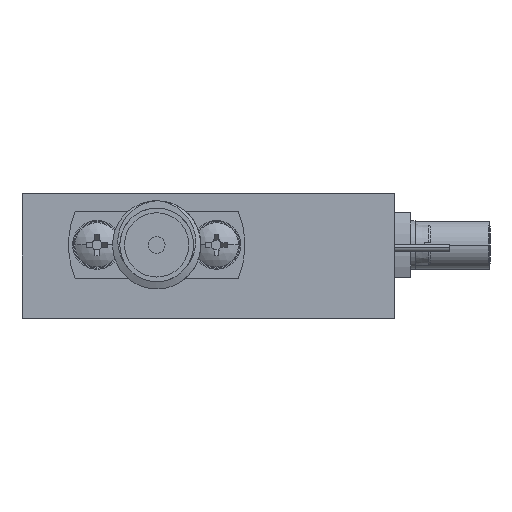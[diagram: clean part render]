
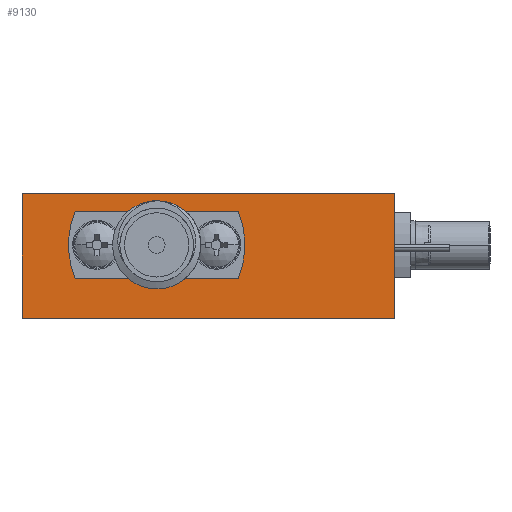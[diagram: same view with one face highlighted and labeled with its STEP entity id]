
A CAD part, left-side view. The second image highlights one B-rep face of the part: STEP entity #9130.
In plain terms, the highlighted planar face has unit normal (-1, 0, 0).
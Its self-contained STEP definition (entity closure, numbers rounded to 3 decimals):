
#1299 = DIRECTION ( 'NONE',  ( 0., -1., 0. ) ) ;
#1707 = VERTEX_POINT ( 'NONE', #56905 ) ;
#1860 = FACE_OUTER_BOUND ( 'NONE', #21637, .T. ) ;
#4303 = ORIENTED_EDGE ( 'NONE', *, *, #17944, .F. ) ;
#7739 = VERTEX_POINT ( 'NONE', #20815 ) ;
#9130 = ADVANCED_FACE ( 'NONE', ( #30271, #1860 ), #40872, .F. ) ;
#12248 = CARTESIAN_POINT ( 'NONE',  ( 0., -26.8, 9. ) ) ;
#12452 = VERTEX_POINT ( 'NONE', #22323 ) ;
#15943 = CARTESIAN_POINT ( 'NONE',  ( 0., -26.8, 9. ) ) ;
#16019 = VECTOR ( 'NONE', #32866, 1000. ) ;
#16708 = VECTOR ( 'NONE', #29605, 1000. ) ;
#17005 = EDGE_CURVE ( 'NONE', #1707, #7739, #25219, .T. ) ;
#17566 = VECTOR ( 'NONE', #48546, 1000. ) ;
#17586 = CARTESIAN_POINT ( 'NONE',  ( 0., -26.8, 9. ) ) ;
#17944 = EDGE_CURVE ( 'NONE', #48379, #20772, #67822, .T. ) ;
#20038 = CARTESIAN_POINT ( 'NONE',  ( 0., -9.3, 5.3 ) ) ;
#20772 = VERTEX_POINT ( 'NONE', #62972 ) ;
#20815 = CARTESIAN_POINT ( 'NONE',  ( 0., -26.8, 0. ) ) ;
#21147 = LINE ( 'NONE', #15943, #16019 ) ;
#21637 = EDGE_LOOP ( 'NONE', ( #31524, #27347, #4303, #60586 ) ) ;
#22323 = CARTESIAN_POINT ( 'NONE',  ( 0., -10.1, 5.3 ) ) ;
#23726 = DIRECTION ( 'NONE',  ( 0., -1., 0. ) ) ;
#24448 = CARTESIAN_POINT ( 'NONE',  ( 0., -9.7, 5.3 ) ) ;
#25219 = LINE ( 'NONE', #58912, #16708 ) ;
#25525 = LINE ( 'NONE', #31356, #17566 ) ;
#26923 = EDGE_CURVE ( 'NONE', #12452, #55818, #37105, .T. ) ;
#27347 = ORIENTED_EDGE ( 'NONE', *, *, #42861, .F. ) ;
#29605 = DIRECTION ( 'NONE',  ( 0., -1., 0. ) ) ;
#30271 = FACE_BOUND ( 'NONE', #68827, .T. ) ;
#31356 = CARTESIAN_POINT ( 'NONE',  ( 0., 0., 9. ) ) ;
#31524 = ORIENTED_EDGE ( 'NONE', *, *, #17005, .T. ) ;
#32866 = DIRECTION ( 'NONE',  ( 0., 0., -1. ) ) ;
#33295 = DIRECTION ( 'NONE',  ( -1., 0., 0. ) ) ;
#34660 = DIRECTION ( 'NONE',  ( 0., 1., 0. ) ) ;
#37105 = CIRCLE ( 'NONE', #59392, 0.4 ) ;
#40872 = PLANE ( 'NONE',  #61039 ) ;
#42861 = EDGE_CURVE ( 'NONE', #20772, #7739, #21147, .T. ) ;
#47270 = ORIENTED_EDGE ( 'NONE', *, *, #26923, .F. ) ;
#47948 = ORIENTED_EDGE ( 'NONE', *, *, #53807, .F. ) ;
#48379 = VERTEX_POINT ( 'NONE', #48812 ) ;
#48546 = DIRECTION ( 'NONE',  ( 0., 0., -1. ) ) ;
#48812 = CARTESIAN_POINT ( 'NONE',  ( 0., 0., 9. ) ) ;
#51285 = CARTESIAN_POINT ( 'NONE',  ( 0., -9.7, 5.3 ) ) ;
#53807 = EDGE_CURVE ( 'NONE', #55818, #12452, #67917, .T. ) ;
#53884 = EDGE_CURVE ( 'NONE', #48379, #1707, #25525, .T. ) ;
#55818 = VERTEX_POINT ( 'NONE', #20038 ) ;
#56905 = CARTESIAN_POINT ( 'NONE',  ( 0., 0., 0. ) ) ;
#57451 = AXIS2_PLACEMENT_3D ( 'NONE', #24448, #58151, #23726 ) ;
#57788 = DIRECTION ( 'NONE',  ( 1., 0., 0. ) ) ;
#58151 = DIRECTION ( 'NONE',  ( -1., 0., 0. ) ) ;
#58912 = CARTESIAN_POINT ( 'NONE',  ( 0., -26.8, 0. ) ) ;
#59392 = AXIS2_PLACEMENT_3D ( 'NONE', #51285, #33295, #62621 ) ;
#60586 = ORIENTED_EDGE ( 'NONE', *, *, #53884, .T. ) ;
#61039 = AXIS2_PLACEMENT_3D ( 'NONE', #12248, #57788, #34660 ) ;
#62621 = DIRECTION ( 'NONE',  ( 0., -1., 0. ) ) ;
#62972 = CARTESIAN_POINT ( 'NONE',  ( 0., -26.8, 9. ) ) ;
#67822 = LINE ( 'NONE', #17586, #71878 ) ;
#67917 = CIRCLE ( 'NONE', #57451, 0.4 ) ;
#68827 = EDGE_LOOP ( 'NONE', ( #47270, #47948 ) ) ;
#71878 = VECTOR ( 'NONE', #1299, 1000. ) ;
